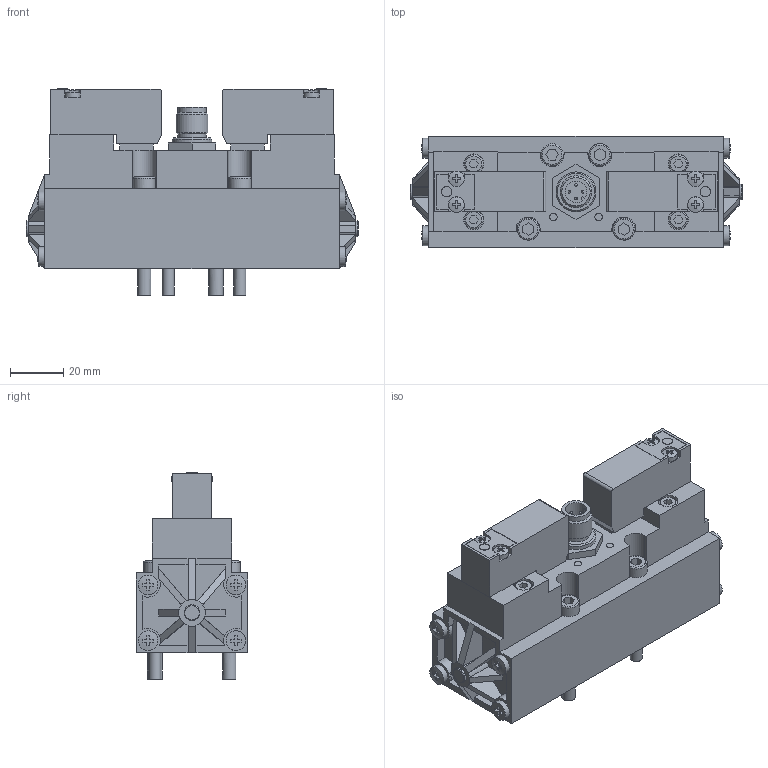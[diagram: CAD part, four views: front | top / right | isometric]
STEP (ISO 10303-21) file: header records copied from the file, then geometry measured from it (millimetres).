
FILE_DESCRIPTION((''),'2;1');
FILE_NAME('I:\Area Tecnica\Disegni\VARIE-3D\Componenti\ISO\ISO-M12\1111_52_3_5_12P.stp','2014-03-18T13:35:59',('valotma1'),(''),'Autodesk Inventor 2013','Autodesk Inventor 2013','');
FILE_SCHEMA(('AUTOMOTIVE_DESIGN { 1 0 10303 214 1 1 1 1 }'));
Length unit declared in the file: millimetre
Products named in the file (3): 1111_52_3_5_12P; 1111_52_3_5; M15P12P_
Assembly tree (3 placements, depth 2):
  1111_52_3_5_12P
    1111_52_3_5
    M15P12P_  x2
Bounding box: 125 x 42 x 77.7 mm (x, y, z)
Volume: 217614.6 mm3; surface area: 40424.1 mm2
Topology: 5 solids, 9 shells, 571 faces, 1462 edges, 969 vertices
Faces by surface type: plane 440, cylinder 98, cone 11, sphere 8, torus 8, bspline 6
Full cylindrical faces by diameter (mm): 1 x4, 2 x10, 3 x4, 3.1 x4, 3.3 x4, 3.9 x2, 4.486 x1, 4.497 x1, 5 x1, 5.543 x1, 5.8 x4, 6 x2, 7 x4, 7.4 x8, 7.5 x4, 8.3 x4, 10.7 x2, 12 x1, 15 x1
Entity records: 14802 total; most frequent: CARTESIAN_POINT 2913, ORIENTED_EDGE 2306, DIRECTION 2268, EDGE_CURVE 1153, VECTOR 852, LINE 852, VERTEX_POINT 807, AXIS2_PLACEMENT_3D 708
